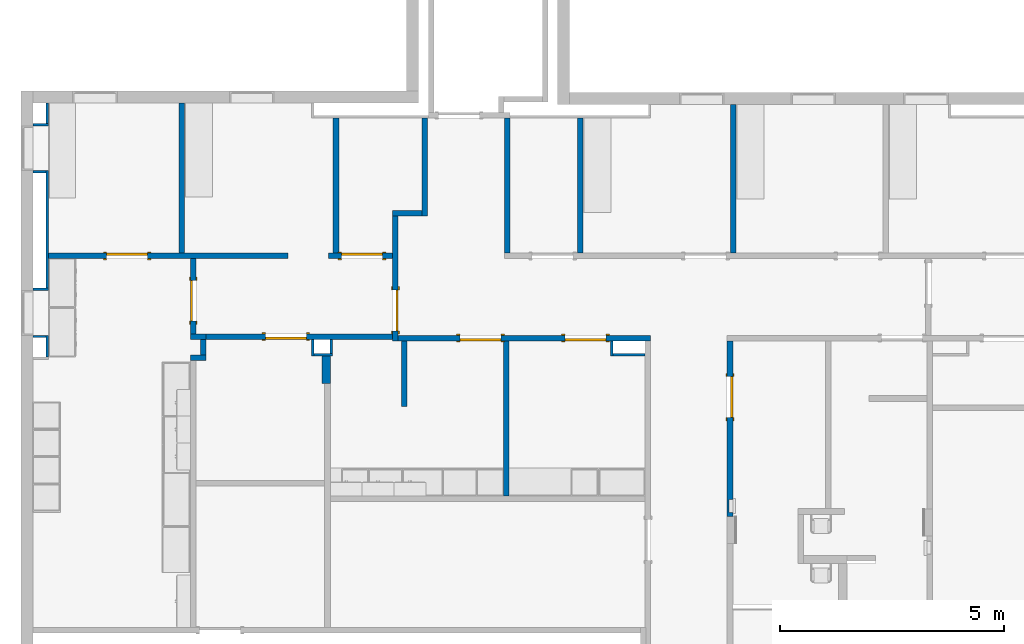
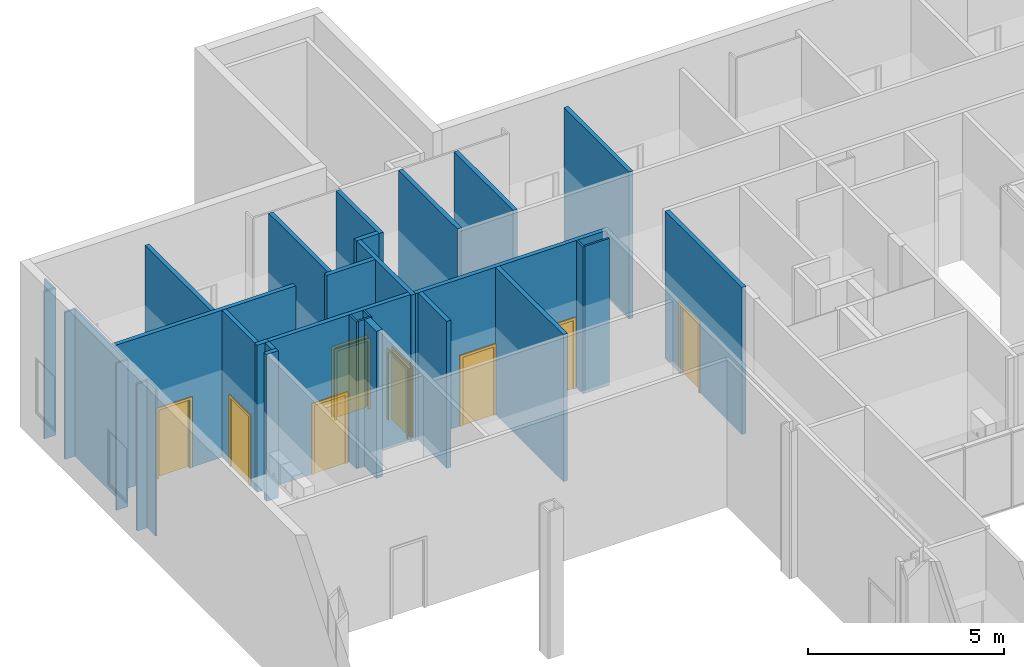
# One storey, part 20 of 45: 32 walls, 8 doors, 9 openings.
"""IFC2X3 building model written with IfcOpenShell, lengths in metres."""

from ifc_helpers import new_model, entity, si_unit, converted_unit, frame, frame_2d, origin, origin_2d_with_axis, place, context, project, spatial, polyline, rectangle, outline, extrude, source, transform, mapped, material, layer, layer_set, layer_usage, type_object, type_shapes, element, fill, save


model = new_model("IFC2X3")

# Units and contexts
model_context = context("Model", 3, precision=1e-09, world=origin())
plan_context = context("Plan", 3, precision=1e-09, world=origin())
ifc_project = project(units=[si_unit("LENGTHUNIT", "METRE"), si_unit("AREAUNIT", "SQUARE_METRE"), si_unit("VOLUMEUNIT", "CUBIC_METRE"), converted_unit("PLANEANGLEUNIT", "DEGREE", entity("IfcRatioMeasure", 0.01745329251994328), si_unit("PLANEANGLEUNIT", "RADIAN"), dimensions=[0, 0, 0, 0, 0, 0, 0]), si_unit("TIMEUNIT", "SECOND")], contexts=[model_context, plan_context])

# Site, building, storey
site_placement = place(None, origin())
site = spatial("IfcSite", under=ifc_project, at=site_placement, Name="Default", CompositionType="ELEMENT")
building_placement = place(site_placement, origin())
building = spatial("IfcBuilding", under=site, at=building_placement, CompositionType="ELEMENT")
storey_placement = place(building_placement, frame((0.0, 0.0, 4.570000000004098)))
storey = spatial("IfcBuildingStorey", under=building, at=storey_placement, Name="Second Floor", CompositionType="ELEMENT", Elevation=4.570000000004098)

# Wall, openings, doors
ifc_material_1 = material(Name="Plasterboard")
ifc_layer_1 = layer(ifc_material_1, 0.016)
ifc_material_2 = material(Name="Metal - Stud Layer")
ifc_layer_2 = layer(ifc_material_2, 0.092)
ifc_layer_3 = layer(ifc_material_1, 0.016)
ifc_layer_set_1 = layer_set([ifc_layer_1, ifc_layer_2, ifc_layer_3], Name="Basic Wall:Interior - Partition (92mm Stud)")
ifc_layer_usage_1 = layer_usage(ifc_layer_set_1, "AXIS2", "NEGATIVE", 0.062)
wall_1_placement = place(storey_placement, frame((-38.9600000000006, 44.9824387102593, 0.0)))
wall_1 = element("IfcWallStandardCase", 1, at=wall_1_placement, inside=storey, material=ifc_layer_usage_1, Name="Basic Wall:Interior - Partition (92mm Stud)", ObjectType="Basic Wall:Interior - Partition (92mm Stud)", context=model_context, shape_type="SweptSolid", body=[
    extrude(rectangle(XDim=5.639999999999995, YDim=0.1240000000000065, at=frame_2d((2.819999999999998, 0.0), x_axis=(-1.0, 0.0))), origin(), (0.0, 0.0, 1.0), 4.577999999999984),
])
opening_1_placement = place(wall_1_placement, frame((4.639999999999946, 0.06199999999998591, 0.0)))
opening_1 = element("IfcOpeningElement", 2, at=opening_1_placement, cuts=wall_1, Name="M_Single-Flush:0915 x 2134mm:0915 x 2134mm:1", ObjectType="Opening", context=model_context, shape_type="SweptSolid", body=[
    extrude(rectangle(XDim=0.9149999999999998, YDim=2.134, at=frame_2d((1.067, 0.4574999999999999), x_axis=(0.0, -1.0))), frame((0.0, 0.0, 0.0), z_axis=(0.0, -1.0, 0.0), x_axis=(0.0, 0.0, 1.0)), (0.0, 0.0, 1.0), 0.124),
])
opening_2_placement = place(wall_1_placement, frame((2.295999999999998, 0.06199999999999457, 0.0)))
opening_2 = element("IfcOpeningElement", 3, at=opening_2_placement, cuts=wall_1, Name="M_Single-Flush:0915 x 2134mm:0915 x 2134mm:1", ObjectType="Opening", context=model_context, shape_type="SweptSolid", body=[
    extrude(rectangle(XDim=0.9149999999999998, YDim=2.134, at=frame_2d((1.067, 0.4575000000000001), x_axis=(0.0, -1.0))), frame((0.0, 0.0, 0.0), z_axis=(0.0, -1.0, 0.0), x_axis=(0.0, 0.0, 1.0)), (0.0, 0.0, 1.0), 0.124),
])
door_style_1 = type_object("IfcDoorStyle", Name="0915 x 2134mm", ConstructionType="NOTDEFINED", OperationType="SINGLE_SWING_LEFT", ParameterTakesPrecedence=False, Sizeable=False)
shared_shape_1 = source(origin(), model_context, "Body", "SweptSolid", [
    extrude(outline(polyline([(-0.5335, -1.123999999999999), (0.5334999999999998, -1.123999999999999), (0.5334999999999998, 1.086), (0.4574999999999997, 1.086), (0.4574999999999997, -1.048000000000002), (-0.4574999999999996, -1.048000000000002), (-0.4574999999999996, 1.086), (-0.5335, 1.086), (-0.5335, -1.123999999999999)])), frame((0.4575000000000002, 0.1489999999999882, 1.086), z_axis=(0.0, -1.0, 0.0), x_axis=(-1.0, 0.0, 0.0)), (0.0, 0.0, 1.0), 0.02499999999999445),
    extrude(outline(polyline([(-1.123999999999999, -0.5334999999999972), (1.085999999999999, -0.5334999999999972), (1.085999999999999, -0.4575000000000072), (-1.048, -0.4575000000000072), (-1.048, 0.4575000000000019), (1.085999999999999, 0.4575000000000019), (1.085999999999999, 0.5335000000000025), (-1.123999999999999, 0.5335000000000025), (-1.123999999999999, -0.5334999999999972)])), frame((0.4574999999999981, 0.0, 1.085999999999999), z_axis=(0.0, -1.0, 0.0), x_axis=(0.0, 0.0, -1.0)), (0.0, 0.0, 1.0), 0.02500000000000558),
    extrude(rectangle(XDim=0.9149999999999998, YDim=0.051, at=origin_2d_with_axis()), frame((0.4575000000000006, 0.09849999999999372, 0.0)), (0.0, 0.0, 1.0), 2.133999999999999),
])
type_shapes(door_style_1, [shared_shape_1])
door_1_placement = place(opening_2_placement, frame((0.0, 0.0, 0.0), z_axis=(0.0, 0.0, 1.0), x_axis=(-1.0, 0.0, 0.0)))
door_1 = element("IfcDoor", 4, at=door_1_placement, inside=storey, type_object=door_style_1, Name="M_Single-Flush:0915 x 2134mm:0915 x 2134mm", ObjectType="0915 x 2134mm", OverallHeight=2.134, OverallWidth=0.9149999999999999, context=model_context, shape_type="MappedRepresentation", body=[
    mapped(shared_shape_1, transform((0.0, 0.0, 0.0), scale=1.0)),
])
fill(opening_2, door_1)
door_2_placement = place(opening_1_placement, frame((0.0, 0.0, 0.0), z_axis=(0.0, 0.0, 1.0), x_axis=(-1.0, 0.0, 0.0)))
door_2 = element("IfcDoor", 5, at=door_2_placement, inside=storey, type_object=door_style_1, Name="M_Single-Flush:0915 x 2134mm:0915 x 2134mm", ObjectType="0915 x 2134mm", OverallHeight=2.134, OverallWidth=0.9149999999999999, context=model_context, shape_type="MappedRepresentation", body=[
    mapped(shared_shape_1, transform((0.0, 0.0, 0.0), scale=1.0)),
])
fill(opening_1, door_2)

# Wall, opening, door
wall_2_placement = place(storey_placement, frame((-43.24600000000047, 45.01643871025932, 0.0)))
wall_2 = element("IfcWallStandardCase", 6, at=wall_2_placement, inside=storey, material=ifc_layer_usage_1, Name="Basic Wall:Interior - Partition (92mm Stud)", ObjectType="Basic Wall:Interior - Partition (92mm Stud)", context=model_context, shape_type="SweptSolid", body=[
    extrude(rectangle(XDim=4.161999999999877, YDim=0.1240000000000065, at=frame_2d((2.080999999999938, 0.0), x_axis=(-1.0, 0.0))), origin(), (0.0, 0.0, 1.0), 4.577999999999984),
])
opening_3_placement = place(wall_2_placement, frame((2.235999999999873, 0.06199999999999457, 0.0)))
opening_3 = element("IfcOpeningElement", 7, at=opening_3_placement, cuts=wall_2, Name="M_Single-Flush:0915 x 2134mm:0915 x 2134mm:1", ObjectType="Opening", context=model_context, shape_type="SweptSolid", body=[
    extrude(rectangle(XDim=0.9149999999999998, YDim=2.134, at=frame_2d((1.067, 0.4575000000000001), x_axis=(0.0, -1.0))), frame((0.0, 0.0, 0.0), z_axis=(0.0, -1.0, 0.0), x_axis=(0.0, 0.0, 1.0)), (0.0, 0.0, 1.0), 0.124),
])
door_3_placement = place(opening_3_placement, frame((0.0, 0.0, 0.0), z_axis=(0.0, 0.0, 1.0), x_axis=(-1.0, 0.0, 0.0)))
door_3 = element("IfcDoor", 8, at=door_3_placement, inside=storey, type_object=door_style_1, Name="M_Single-Flush:0915 x 2134mm:0915 x 2134mm", ObjectType="0915 x 2134mm", OverallHeight=2.134, OverallWidth=0.9149999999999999, context=model_context, shape_type="MappedRepresentation", body=[
    mapped(shared_shape_1, transform((0.0, 0.0, 0.0), scale=1.0)),
])
fill(opening_3, door_3)

wall_3_placement = place(storey_placement, frame((-39.02200000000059, 47.70443871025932, 0.0), z_axis=(0.0, 0.0, 1.0), x_axis=(0.0, -1.0, 0.0)))
wall_3 = element("IfcWallStandardCase", 9, at=wall_3_placement, inside=storey, material=ifc_layer_usage_1, Name="Basic Wall:Interior - Partition (92mm Stud)", ObjectType="Basic Wall:Interior - Partition (92mm Stud)", context=model_context, shape_type="SweptSolid", body=[
    extrude(rectangle(XDim=2.784000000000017, YDim=0.1240000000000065, at=frame_2d((1.392000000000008, 0.0), x_axis=(-1.0, 0.0))), origin(), (0.0, 0.0, 1.0), 4.577999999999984),
])
opening_4_placement = place(wall_3_placement, frame((1.645000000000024, -0.06200000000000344, 0.0)))
opening_4 = element("IfcOpeningElement", 10, at=opening_4_placement, cuts=wall_3, Name="M_Single-Flush:0915 x 2134mm:0915 x 2134mm:1", ObjectType="Opening", context=model_context, shape_type="SweptSolid", body=[
    extrude(rectangle(XDim=0.9149999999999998, YDim=2.134, at=frame_2d((1.067, 0.4575), x_axis=(0.0, 1.0))), frame((0.0, 0.0, 0.0), z_axis=(0.0, 1.0, 0.0), x_axis=(0.0, 0.0, 1.0)), (0.0, 0.0, 1.0), 0.124),
])
door_style_2 = type_object("IfcDoorStyle", Name="0915 x 2134mm", ConstructionType="NOTDEFINED", OperationType="SINGLE_SWING_RIGHT", ParameterTakesPrecedence=False, Sizeable=False)
shared_shape_2 = source(origin(), model_context, "Body", "SweptSolid", [
    extrude(outline(polyline([(-0.5335, -1.123999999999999), (0.5334999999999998, -1.123999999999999), (0.5334999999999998, 1.086), (0.4574999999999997, 1.086), (0.4574999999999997, -1.048000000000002), (-0.4574999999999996, -1.048000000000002), (-0.4574999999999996, 1.086), (-0.5335, 1.086), (-0.5335, -1.123999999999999)])), frame((0.4575000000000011, 0.1239999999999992, 1.086), z_axis=(0.0, 1.0, 0.0), x_axis=(1.0, 0.0, 0.0)), (0.0, 0.0, 1.0), 0.02499999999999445),
    extrude(outline(polyline([(-1.123999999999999, -0.5334999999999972), (1.085999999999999, -0.5334999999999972), (1.085999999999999, -0.4575000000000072), (-1.048, -0.4575000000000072), (-1.048, 0.4575000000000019), (1.085999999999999, 0.4575000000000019), (1.085999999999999, 0.5335000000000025), (-1.123999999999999, 0.5335000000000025), (-1.123999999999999, -0.5334999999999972)])), frame((0.4575000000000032, -0.02500000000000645, 1.085999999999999), z_axis=(0.0, 1.0, 0.0), x_axis=(0.0, 0.0, -1.0)), (0.0, 0.0, 1.0), 0.02500000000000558),
    extrude(rectangle(XDim=0.051, YDim=0.9149999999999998, at=origin_2d_with_axis()), frame((0.4575000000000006, 0.09849999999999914, 0.0), z_axis=(0.0, 0.0, 1.0), x_axis=(0.0, 1.0, 0.0)), (0.0, 0.0, 1.0), 2.133999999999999),
])
type_shapes(door_style_2, [shared_shape_2])
door_4_placement = place(opening_4_placement, origin())
door_4 = element("IfcDoor", 11, at=door_4_placement, inside=storey, type_object=door_style_2, Name="M_Single-Flush:0915 x 2134mm:0915 x 2134mm", ObjectType="0915 x 2134mm", OverallHeight=2.134, OverallWidth=0.9149999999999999, context=model_context, shape_type="MappedRepresentation", body=[
    mapped(shared_shape_2, transform((0.0, 0.0, 0.0), scale=1.0)),
])
fill(opening_4, door_4)

wall_4_placement = place(storey_placement, frame((-41.42500000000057, 46.81643871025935, 0.0), z_axis=(0.0, 0.0, 1.0), x_axis=(-1.0, 0.0, 0.0)))
wall_4 = element("IfcWallStandardCase", 12, at=wall_4_placement, inside=storey, material=ifc_layer_usage_1, Name="Basic Wall:Interior - Partition (92mm Stud)", ObjectType="Basic Wall:Interior - Partition (92mm Stud)", context=model_context, shape_type="SweptSolid", body=[
    extrude(rectangle(XDim=5.344999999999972, YDim=0.1240000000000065, at=frame_2d((2.672499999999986, 0.0), x_axis=(-1.0, 0.0))), origin(), (0.0, 0.0, 1.0), 4.577999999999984),
])
opening_5_placement = place(wall_4_placement, frame((4.043999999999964, 0.06199999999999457, 0.0)))
opening_5 = element("IfcOpeningElement", 13, at=opening_5_placement, cuts=wall_4, Name=":1", ObjectType="Opening", context=model_context, shape_type="SweptSolid", body=[
    extrude(rectangle(XDim=0.9149999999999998, YDim=2.134, at=frame_2d((1.067, 0.4575), x_axis=(0.0, 1.0))), frame((0.0, 0.0, 0.0), z_axis=(0.0, -1.0, 0.0), x_axis=(0.0, 0.0, 1.0)), (0.0, 0.0, 1.0), 0.124),
])
door_5_placement = place(opening_5_placement, frame((0.0, 0.0, 0.0), z_axis=(0.0, 0.0, 1.0), x_axis=(-1.0, 0.0, 0.0)))
door_5 = element("IfcDoor", 14, at=door_5_placement, inside=storey, type_object=door_style_2, Name="M_Single-Flush:0915 x 2134mm:0915 x 2134mm", ObjectType="0915 x 2134mm", OverallHeight=2.134, OverallWidth=0.9149999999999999, context=model_context, shape_type="MappedRepresentation", body=[
    mapped(shared_shape_2, transform((0.0, 0.0, 0.0), scale=1.0)),
])
fill(opening_5, door_5)

# Wall
wall_5_placement = place(storey_placement, frame((-36.5280000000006, 46.87843871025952, 0.0), z_axis=(0.0, 0.0, 1.0), x_axis=(0.0, 1.0, 0.0)))
element("IfcWallStandardCase", 15, at=wall_5_placement, inside=storey, material=ifc_layer_usage_1, Name="Basic Wall:Interior - Partition (92mm Stud)", ObjectType="Basic Wall:Interior - Partition (92mm Stud)", context=model_context, shape_type="SweptSolid", body=[
    extrude(rectangle(XDim=3.015999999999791, YDim=0.1239999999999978, at=frame_2d((1.507999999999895, 0.0), x_axis=(-1.0, 0.0))), origin(), (0.0, 0.0, 1.0), 4.577999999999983),
])

# Wall, openings, door
wall_6_placement = place(storey_placement, frame((-31.5480000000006, 40.99537919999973, 0.0), z_axis=(0.0, 0.0, 1.0), x_axis=(0.0, 1.0, 0.0)))
wall_6 = element("IfcWallStandardCase", 16, at=wall_6_placement, inside=storey, material=ifc_layer_usage_1, Name="Basic Wall:Interior - Partition (92mm Stud)", ObjectType="Basic Wall:Interior - Partition (92mm Stud)", context=model_context, shape_type="SweptSolid", body=[
    extrude(rectangle(XDim=3.925059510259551, YDim=0.1239999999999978, at=frame_2d((1.962529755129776, 0.0), x_axis=(-1.0, 0.0))), origin(), (0.0, 0.0, 1.0), 4.577999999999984),
])
opening_6_placement = place(wall_6_placement, origin())
element("IfcOpeningElement", 17, at=opening_6_placement, cuts=wall_6, ObjectType="Opening", context=model_context, shape_type="SweptSolid", body=[
    extrude(rectangle(XDim=1.362075, YDim=0.2984499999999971, at=origin_2d_with_axis()), frame((0.2362676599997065, -0.1255000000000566, 1.041399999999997), z_axis=(0.0, 1.0, 0.0), x_axis=(0.0, 0.0, -1.0)), (0.0, 0.0, 1.0), 0.1524000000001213),
])
opening_7_placement = place(wall_6_placement, frame((3.125059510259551, 0.06199999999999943, 0.0)))
opening_7 = element("IfcOpeningElement", 18, at=opening_7_placement, cuts=wall_6, Name=":1", ObjectType="Opening", context=model_context, shape_type="SweptSolid", body=[
    extrude(rectangle(XDim=0.9149999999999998, YDim=2.134, at=frame_2d((1.067, 0.4575), x_axis=(0.0, 1.0))), frame((0.0, 0.0, 0.0), z_axis=(0.0, -1.0, 0.0), x_axis=(0.0, 0.0, 1.0)), (0.0, 0.0, 1.0), 0.124),
])
door_6_placement = place(opening_7_placement, frame((0.0, 0.0, 0.0), z_axis=(0.0, 0.0, 1.0), x_axis=(-1.0, 0.0, 0.0)))
door_6 = element("IfcDoor", 19, at=door_6_placement, inside=storey, type_object=door_style_2, Name="M_Single-Flush:0915 x 2134mm:0915 x 2134mm", ObjectType="0915 x 2134mm", OverallHeight=2.134, OverallWidth=0.9149999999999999, context=model_context, shape_type="MappedRepresentation", body=[
    mapped(shared_shape_2, transform((0.0, 0.0, 0.0), scale=1.0)),
])
fill(opening_7, door_6)

# Wall, opening, door
wall_7_placement = place(storey_placement, frame((-39.08400000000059, 46.81643871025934, 0.0), z_axis=(0.0, 0.0, 1.0), x_axis=(-1.0, 0.0, 0.0)))
wall_7 = element("IfcWallStandardCase", 20, at=wall_7_placement, inside=storey, material=ifc_layer_usage_1, Name="Basic Wall:Interior - Partition (92mm Stud)", ObjectType="Basic Wall:Interior - Partition (92mm Stud)", context=model_context, shape_type="SweptSolid", body=[
    extrude(rectangle(XDim=1.425999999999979, YDim=0.1240000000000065, at=frame_2d((0.7129999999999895, 0.0), x_axis=(-1.0, 0.0))), origin(), (0.0, 0.0, 1.0), 4.577999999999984),
])
opening_8_placement = place(wall_7_placement, frame((1.141999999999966, 0.06200000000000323, 0.0)))
opening_8 = element("IfcOpeningElement", 21, at=opening_8_placement, cuts=wall_7, Name="M_Single-Flush:0915 x 2134mm:0915 x 2134mm:1", ObjectType="Opening", context=model_context, shape_type="SweptSolid", body=[
    extrude(rectangle(XDim=0.9149999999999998, YDim=2.134, at=frame_2d((1.067, 0.4575000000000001), x_axis=(0.0, -1.0))), frame((0.0, 0.0, 0.0), z_axis=(0.0, -1.0, 0.0), x_axis=(0.0, 0.0, 1.0)), (0.0, 0.0, 1.0), 0.124),
])
door_7_placement = place(opening_8_placement, frame((0.0, 0.0, 0.0), z_axis=(0.0, 0.0, 1.0), x_axis=(-1.0, 0.0, 0.0)))
door_7 = element("IfcDoor", 22, at=door_7_placement, inside=storey, type_object=door_style_1, Name="M_Single-Flush:0915 x 2134mm:0915 x 2134mm", ObjectType="0915 x 2134mm", OverallHeight=2.134, OverallWidth=0.9149999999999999, context=model_context, shape_type="MappedRepresentation", body=[
    mapped(shared_shape_1, transform((0.0, 0.0, 0.0), scale=1.0)),
])
fill(opening_8, door_7)

# Walls
ifc_layer_4 = layer(ifc_material_1, 0.016)
ifc_layer_5 = layer(ifc_material_2, 0.152)
ifc_layer_6 = layer(ifc_material_1, 0.016)
ifc_layer_set_2 = layer_set([ifc_layer_4, ifc_layer_5, ifc_layer_6], Name="Basic Wall:Interior - Plumbing (152mm Stud)")
ifc_layer_usage_2 = layer_usage(ifc_layer_set_2, "AXIS2", "NEGATIVE", 0.092)
wall_8_placement = place(storey_placement, frame((-40.56800000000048, 43.9664387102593, 0.0), z_axis=(0.0, 0.0, 1.0), x_axis=(0.0, 1.0, 0.0)))
element("IfcWallStandardCase", 23, at=wall_8_placement, inside=storey, material=ifc_layer_usage_2, Name="Basic Wall:Interior - Plumbing (152mm Stud)", ObjectType="Basic Wall:Interior - Plumbing (152mm Stud)", context=model_context, shape_type="SweptSolid", body=[
    extrude(rectangle(XDim=0.6180000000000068, YDim=0.1839999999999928, at=frame_2d((0.3090000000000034, 0.0), x_axis=(-1.0, 0.0))), origin(), (0.0, 0.0, 1.0), 4.577999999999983),
])
ifc_layer_7 = layer(ifc_material_2, 0.038)
ifc_layer_8 = layer(ifc_material_1, 0.016)
ifc_layer_set_3 = layer_set([ifc_layer_7, ifc_layer_8], Name="Basic Wall:Interior - Furring (38 mm Stud)")
ifc_layer_usage_3 = layer_usage(ifc_layer_set_3, "AXIS2", "NEGATIVE", 0.027)
wall_9_placement = place(storey_placement, frame((-46.79700000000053, 46.09843913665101, 0.0), z_axis=(0.0, 0.0, 1.0), x_axis=(0.0, 1.0, 0.0)))
element("IfcWallStandardCase", 24, at=wall_9_placement, inside=storey, material=ifc_layer_usage_3, Name="Basic Wall:Interior - Furring (38 mm Stud)", ObjectType="Basic Wall:Interior - Furring (38 mm Stud)", context=model_context, shape_type="SweptSolid", body=[
    extrude(rectangle(XDim=2.624007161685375, YDim=0.05400000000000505, at=frame_2d((1.312003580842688, 0.0), x_axis=(-1.0, 0.0))), origin(), (0.0, 0.0, 1.0), 4.577999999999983),
])

# Wall, opening, door
wall_10_placement = place(storey_placement, frame((-43.53800000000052, 45.07843871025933, 0.0), z_axis=(0.0, 0.0, 1.0), x_axis=(0.0, 1.0, 0.0)))
wall_10 = element("IfcWallStandardCase", 25, at=wall_10_placement, inside=storey, material=ifc_layer_usage_1, Name="Basic Wall:Interior - Partition (92mm Stud)", ObjectType="Basic Wall:Interior - Partition (92mm Stud)", context=model_context, shape_type="SweptSolid", body=[
    extrude(rectangle(XDim=1.676000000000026, YDim=0.1240000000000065, at=frame_2d((0.8380000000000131, 0.0), x_axis=(-1.0, 0.0))), origin(), (0.0, 0.0, 1.0), 4.577999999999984),
])
opening_9_placement = place(wall_10_placement, frame((0.279999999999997, -0.06200000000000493, 0.0)))
opening_9 = element("IfcOpeningElement", 26, at=opening_9_placement, cuts=wall_10, Name="M_Single-Flush:0915 x 2134mm:0915 x 2134mm:1", ObjectType="Opening", context=model_context, shape_type="SweptSolid", body=[
    extrude(rectangle(XDim=0.9149999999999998, YDim=2.134, at=frame_2d((1.067, 0.4575), x_axis=(0.0, 1.0))), frame((0.0, 0.0, 0.0), z_axis=(0.0, 1.0, 0.0), x_axis=(0.0, 0.0, 1.0)), (0.0, 0.0, 1.0), 0.124),
])
door_8_placement = place(opening_9_placement, origin())
door_8 = element("IfcDoor", 27, at=door_8_placement, inside=storey, type_object=door_style_2, Name="M_Single-Flush:0915 x 2134mm:0915 x 2134mm", ObjectType="0915 x 2134mm", OverallHeight=2.134, OverallWidth=0.9149999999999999, context=model_context, shape_type="MappedRepresentation", body=[
    mapped(shared_shape_2, transform((0.0, 0.0, 0.0), scale=1.0)),
])
fill(opening_9, door_8)

# Walls
wall_11_placement = place(storey_placement, frame((-43.30800000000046, 44.60443871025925, 0.0), z_axis=(0.0, 0.0, 1.0), x_axis=(0.0, 1.0, 0.0)))
element("IfcWallStandardCase", 28, at=wall_11_placement, inside=storey, material=ifc_layer_usage_1, Name="Basic Wall:Interior - Partition (92mm Stud)", ObjectType="Basic Wall:Interior - Partition (92mm Stud)", context=model_context, shape_type="SweptSolid", body=[
    extrude(rectangle(XDim=0.350000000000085, YDim=0.1240000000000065, at=frame_2d((0.1750000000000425, 0.0), x_axis=(-1.0, 0.0))), origin(), (0.0, 0.0, 1.0), 4.577999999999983),
])
wall_12_placement = place(storey_placement, frame((-38.36200000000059, 49.89443871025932, 0.0), z_axis=(0.0, 0.0, 1.0), x_axis=(0.0, -1.0, 0.0)))
element("IfcWallStandardCase", 29, at=wall_12_placement, inside=storey, material=ifc_layer_usage_1, Name="Basic Wall:Interior - Partition (92mm Stud)", ObjectType="Basic Wall:Interior - Partition (92mm Stud)", context=model_context, shape_type="SweptSolid", body=[
    extrude(rectangle(XDim=2.190000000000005, YDim=0.1239999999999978, at=frame_2d((1.095000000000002, 0.0), x_axis=(-1.0, 0.0))), origin(), (0.0, 0.0, 1.0), 4.577999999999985),
])
wall_13_placement = place(storey_placement, frame((-43.24600000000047, 45.01643871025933, 0.0), z_axis=(0.0, 0.0, 1.0), x_axis=(-1.0, 0.0, 0.0)))
element("IfcWallStandardCase", 30, at=wall_13_placement, inside=storey, material=ifc_layer_usage_1, Name="Basic Wall:Interior - Partition (92mm Stud)", ObjectType="Basic Wall:Interior - Partition (92mm Stud)", context=model_context, shape_type="SweptSolid", body=[
    extrude(rectangle(XDim=0.3540000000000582, YDim=0.1240000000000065, at=frame_2d((0.1770000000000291, 0.0), x_axis=(-1.0, 0.0))), origin(), (0.0, 0.0, 1.0), 4.577999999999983),
])
wall_14_placement = place(storey_placement, frame((-40.8360000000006, 44.6114387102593, 0.0)))
element("IfcWallStandardCase", 31, at=wall_14_placement, inside=storey, material=ifc_layer_usage_3, Name="Basic Wall:Interior - Furring (38 mm Stud)", ObjectType="Basic Wall:Interior - Furring (38 mm Stud)", context=model_context, shape_type="SweptSolid", body=[
    extrude(rectangle(XDim=0.4059999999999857, YDim=0.05400000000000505, at=frame_2d((0.2029999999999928, 0.0), x_axis=(-1.0, 0.0))), origin(), (0.0, 0.0, 1.0), 4.577999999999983),
])
wall_15_placement = place(storey_placement, frame((-36.54200000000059, 44.92043871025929, 0.0), z_axis=(0.0, 0.0, 1.0), x_axis=(0.0, -1.0, 0.0)))
element("IfcWallStandardCase", 32, at=wall_15_placement, inside=storey, material=ifc_layer_usage_1, Name="Basic Wall:Interior - Partition (92mm Stud)", ObjectType="Basic Wall:Interior - Partition (92mm Stud)", context=model_context, shape_type="SweptSolid", body=[
    extrude(rectangle(XDim=3.461999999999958, YDim=0.1239999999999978, at=frame_2d((1.730999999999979, 0.0), x_axis=(-1.0, 0.0))), origin(), (0.0, 0.0, 1.0), 4.577999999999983),
])
wall_16_placement = place(storey_placement, frame((-43.79200000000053, 50.23743871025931, 0.0), z_axis=(0.0, 0.0, 1.0), x_axis=(0.0, -1.0, 0.0)))
element("IfcWallStandardCase", 33, at=wall_16_placement, inside=storey, material=ifc_layer_usage_1, Name="Basic Wall:Interior - Partition (92mm Stud)", ObjectType="Basic Wall:Interior - Partition (92mm Stud)", context=model_context, shape_type="SweptSolid", body=[
    extrude(rectangle(XDim=3.358999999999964, YDim=0.1240000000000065, at=frame_2d((1.679499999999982, 0.0), x_axis=(-1.0, 0.0))), origin(), (0.0, 0.0, 1.0), 4.577999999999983),
])
wall_17_placement = place(storey_placement, frame((-34.88800000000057, 46.87843871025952, 0.0), z_axis=(0.0, 0.0, 1.0), x_axis=(0.0, 1.0, 0.0)))
element("IfcWallStandardCase", 34, at=wall_17_placement, inside=storey, material=ifc_layer_usage_1, Name="Basic Wall:Interior - Partition (92mm Stud)", ObjectType="Basic Wall:Interior - Partition (92mm Stud)", context=model_context, shape_type="SweptSolid", body=[
    extrude(rectangle(XDim=3.0159999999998, YDim=0.1239999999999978, at=frame_2d((1.5079999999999, 0.0), x_axis=(-1.0, 0.0))), origin(), (0.0, 0.0, 1.0), 4.577999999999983),
])
wall_18_placement = place(storey_placement, frame((-38.4240000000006, 47.76643871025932, 0.0), z_axis=(0.0, 0.0, 1.0), x_axis=(-1.0, 0.0, 0.0)))
element("IfcWallStandardCase", 35, at=wall_18_placement, inside=storey, material=ifc_layer_usage_1, Name="Basic Wall:Interior - Partition (92mm Stud)", ObjectType="Basic Wall:Interior - Partition (92mm Stud)", context=model_context, shape_type="SweptSolid", body=[
    extrude(rectangle(XDim=0.6599999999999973, YDim=0.1240000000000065, at=frame_2d((0.3299999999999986, 0.0), x_axis=(-1.0, 0.0))), origin(), (0.0, 0.0, 1.0), 4.577999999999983),
])
wall_19_placement = place(storey_placement, frame((-43.60000000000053, 44.54243871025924, 0.0)))
element("IfcWallStandardCase", 36, at=wall_19_placement, inside=storey, material=ifc_layer_usage_1, Name="Basic Wall:Interior - Partition (92mm Stud)", ObjectType="Basic Wall:Interior - Partition (92mm Stud)", context=model_context, shape_type="SweptSolid", body=[
    extrude(rectangle(XDim=0.3540000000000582, YDim=0.1240000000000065, at=frame_2d((0.1770000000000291, 0.0), x_axis=(-1.0, 0.0))), origin(), (0.0, 0.0, 1.0), 4.577999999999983),
])
wall_20_placement = place(storey_placement, frame((-40.34800000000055, 46.87843871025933, 0.0), z_axis=(0.0, 0.0, 1.0), x_axis=(0.0, 1.0, 0.0)))
element("IfcWallStandardCase", 37, at=wall_20_placement, inside=storey, material=ifc_layer_usage_1, Name="Basic Wall:Interior - Partition (92mm Stud)", ObjectType="Basic Wall:Interior - Partition (92mm Stud)", context=model_context, shape_type="SweptSolid", body=[
    extrude(rectangle(XDim=3.015999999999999, YDim=0.1240000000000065, at=frame_2d((1.507999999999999, 0.0), x_axis=(-1.0, 0.0))), origin(), (0.0, 0.0, 1.0), 4.577999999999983),
])
wall_21_placement = place(storey_placement, frame((-31.47800000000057, 46.8784387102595, 0.0), z_axis=(0.0, 0.0, 1.0), x_axis=(0.0, 1.0, 0.0)))
element("IfcWallStandardCase", 38, at=wall_21_placement, inside=storey, material=ifc_layer_usage_1, Name="Basic Wall:Interior - Partition (92mm Stud)", ObjectType="Basic Wall:Interior - Partition (92mm Stud)", context=model_context, shape_type="SweptSolid", body=[
    extrude(rectangle(XDim=3.324561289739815, YDim=0.1239999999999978, at=frame_2d((1.662280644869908, 0.0), x_axis=(-1.0, 0.0))), origin(), (0.0, 0.0, 1.0), 4.577999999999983),
])
wall_22_placement = place(storey_placement, frame((-46.82400000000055, 45.0174387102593, 0.0), z_axis=(0.0, 0.0, 1.0), x_axis=(-1.0, 0.0, 0.0)))
element("IfcWallStandardCase", 39, at=wall_22_placement, inside=storey, material=ifc_layer_usage_3, Name="Basic Wall:Interior - Furring (38 mm Stud)", ObjectType="Basic Wall:Interior - Furring (38 mm Stud)", context=model_context, shape_type="SweptSolid", body=[
    extrude(rectangle(XDim=0.2890000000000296, YDim=0.05400000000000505, at=frame_2d((0.1445000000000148, 0.0), x_axis=(-1.0, 0.0))), origin(), (0.0, 0.0, 1.0), 4.577999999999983),
])
wall_23_placement = place(storey_placement, frame((-47.11300000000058, 46.07143913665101, 0.0)))
element("IfcWallStandardCase", 40, at=wall_23_placement, inside=storey, material=ifc_layer_usage_3, Name="Basic Wall:Interior - Furring (38 mm Stud)", ObjectType="Basic Wall:Interior - Furring (38 mm Stud)", context=model_context, shape_type="SweptSolid", body=[
    extrude(rectangle(XDim=0.3430000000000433, YDim=0.05400000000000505, at=frame_2d((0.1715000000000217, 0.0), x_axis=(-1.0, 0.0))), origin(), (0.0, 0.0, 1.0), 4.577999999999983),
])
wall_24_placement = place(storey_placement, frame((-46.79700000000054, 44.56092803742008, 0.0), z_axis=(0.0, 0.0, 1.0), x_axis=(0.0, 1.0, 0.0)))
element("IfcWallStandardCase", 41, at=wall_24_placement, inside=storey, material=ifc_layer_usage_3, Name="Basic Wall:Interior - Furring (38 mm Stud)", ObjectType="Basic Wall:Interior - Furring (38 mm Stud)", context=model_context, shape_type="SweptSolid", body=[
    extrude(rectangle(XDim=0.4835106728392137, YDim=0.05400000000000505, at=frame_2d((0.2417553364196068, 0.0), x_axis=(-1.0, 0.0))), origin(), (0.0, 0.0, 1.0), 4.577999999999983),
])
wall_25_placement = place(storey_placement, frame((-47.11300000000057, 49.74944628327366, 0.0)))
element("IfcWallStandardCase", 42, at=wall_25_placement, inside=storey, material=ifc_layer_usage_3, Name="Basic Wall:Interior - Furring (38 mm Stud)", ObjectType="Basic Wall:Interior - Furring (38 mm Stud)", context=model_context, shape_type="SweptSolid", body=[
    extrude(rectangle(XDim=0.343000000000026, YDim=0.05400000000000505, at=frame_2d((0.171500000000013, 0.0), x_axis=(-1.0, 0.0))), origin(), (0.0, 0.0, 1.0), 4.577999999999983),
])
wall_26_placement = place(storey_placement, frame((-46.82400000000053, 48.69544629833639, 0.0), z_axis=(0.0, 0.0, 1.0), x_axis=(-1.0, 0.0, 0.0)))
element("IfcWallStandardCase", 43, at=wall_26_placement, inside=storey, material=ifc_layer_usage_3, Name="Basic Wall:Interior - Furring (38 mm Stud)", ObjectType="Basic Wall:Interior - Furring (38 mm Stud)", context=model_context, shape_type="SweptSolid", body=[
    extrude(rectangle(XDim=0.2890000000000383, YDim=0.05400000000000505, at=frame_2d((0.1445000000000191, 0.0), x_axis=(-1.0, 0.0))), origin(), (0.0, 0.0, 1.0), 4.577999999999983),
])
wall_27_placement = place(storey_placement, frame((-40.4570000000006, 44.63843871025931, 0.0), z_axis=(0.0, 0.0, 1.0), x_axis=(0.0, 1.0, 0.0)))
element("IfcWallStandardCase", 44, at=wall_27_placement, inside=storey, material=ifc_layer_usage_3, Name="Basic Wall:Interior - Furring (38 mm Stud)", ObjectType="Basic Wall:Interior - Furring (38 mm Stud)", context=model_context, shape_type="SweptSolid", body=[
    extrude(rectangle(XDim=0.3160000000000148, YDim=0.05400000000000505, at=frame_2d((0.1580000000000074, 0.0), x_axis=(-1.0, 0.0))), origin(), (0.0, 0.0, 1.0), 4.577999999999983),
])
wall_28_placement = place(storey_placement, frame((-34.16600000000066, 44.61143871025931, 0.0)))
element("IfcWallStandardCase", 45, at=wall_28_placement, inside=storey, material=ifc_layer_usage_3, Name="Basic Wall:Interior - Furring (38 mm Stud)", ObjectType="Basic Wall:Interior - Furring (38 mm Stud)", context=model_context, shape_type="SweptSolid", body=[
    extrude(rectangle(XDim=0.7220000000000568, YDim=0.05400000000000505, at=frame_2d((0.3610000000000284, 0.0), x_axis=(-1.0, 0.0))), origin(), (0.0, 0.0, 1.0), 4.577999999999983),
])
wall_29_placement = place(storey_placement, frame((-40.8630000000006, 44.95443871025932, 0.0), z_axis=(0.0, 0.0, 1.0), x_axis=(0.0, -1.0, 0.0)))
element("IfcWallStandardCase", 46, at=wall_29_placement, inside=storey, material=ifc_layer_usage_3, Name="Basic Wall:Interior - Furring (38 mm Stud)", ObjectType="Basic Wall:Interior - Furring (38 mm Stud)", context=model_context, shape_type="SweptSolid", body=[
    extrude(rectangle(XDim=0.3700000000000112, YDim=0.05400000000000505, at=frame_2d((0.1850000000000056, 0.0), x_axis=(-1.0, 0.0))), origin(), (0.0, 0.0, 1.0), 4.577999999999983),
])
wall_30_placement = place(storey_placement, frame((-34.19300000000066, 44.92043871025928, 0.0), z_axis=(0.0, 0.0, 1.0), x_axis=(0.0, -1.0, 0.0)))
element("IfcWallStandardCase", 47, at=wall_30_placement, inside=storey, material=ifc_layer_usage_3, Name="Basic Wall:Interior - Furring (38 mm Stud)", ObjectType="Basic Wall:Interior - Furring (38 mm Stud)", context=model_context, shape_type="SweptSolid", body=[
    extrude(rectangle(XDim=0.3359999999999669, YDim=0.05399999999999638, at=frame_2d((0.1679999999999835, 0.0), x_axis=(-1.0, 0.0))), origin(), (0.0, 0.0, 1.0), 4.577999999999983),
])
wall_31_placement = place(storey_placement, frame((-46.79700000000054, 49.77644628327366, 0.0), z_axis=(0.0, 0.0, 1.0), x_axis=(0.0, 1.0, 0.0)))
element("IfcWallStandardCase", 48, at=wall_31_placement, inside=storey, material=ifc_layer_usage_3, Name="Basic Wall:Interior - Furring (38 mm Stud)", ObjectType="Basic Wall:Interior - Furring (38 mm Stud)", context=model_context, shape_type="SweptSolid", body=[
    extrude(rectangle(XDim=0.4609924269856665, YDim=0.05400000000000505, at=frame_2d((0.2304962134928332, 0.0), x_axis=(-1.0, 0.0))), origin(), (0.0, 0.0, 1.0), 4.577999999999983),
])
wall_32_placement = place(storey_placement, frame((-38.82200000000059, 44.92043871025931, 0.0), z_axis=(0.0, 0.0, 1.0), x_axis=(0.0, -1.0, 0.0)))
element("IfcWallStandardCase", 49, at=wall_32_placement, inside=storey, material=ifc_layer_usage_1, Name="Basic Wall:Interior - Partition (92mm Stud)", ObjectType="Basic Wall:Interior - Partition (92mm Stud)", context=model_context, shape_type="SweptSolid", body=[
    extrude(rectangle(XDim=1.465999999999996, YDim=0.1239999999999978, at=frame_2d((0.732999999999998, 0.0), x_axis=(-1.0, 0.0))), origin(), (0.0, 0.0, 1.0), 4.577999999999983),
])

save(model, "model.ifc")
